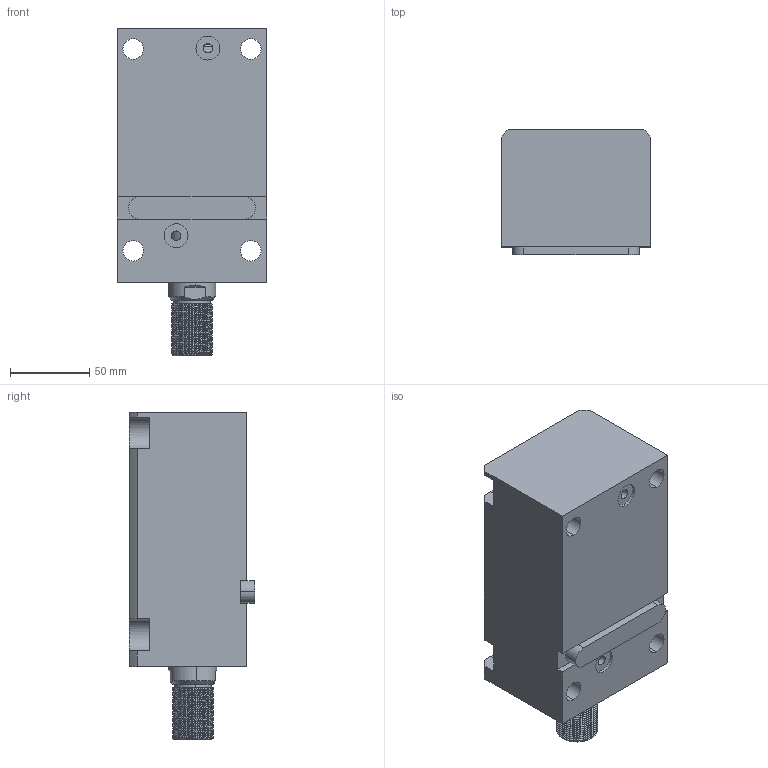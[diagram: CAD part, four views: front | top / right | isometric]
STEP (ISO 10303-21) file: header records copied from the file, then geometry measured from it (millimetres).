
FILE_DESCRIPTION (( 'STEP AP203' ), '1' );
FILE_NAME ('CHTB-LAM50-100W.STEP', '2018-05-24T00:15:20', ( '' ), ( '' ), 'SwSTEP 2.0', 'SolidWorks 2015', '' );
FILE_SCHEMA (( 'CONFIG_CONTROL_DESIGN' ));
Length unit declared in the file: millimetre
Products named in the file (4): 活塞杆LAM50-100W; CHTB-LAM50-100W; CHTM-SDMA50QG; 掛极LAM50-100W
Assembly tree (3 placements, depth 2):
  CHTB-LAM50-100W
    掛极LAM50-100W
    活塞杆LAM50-100W
    CHTM-SDMA50QG
Bounding box: 94 x 79 x 206 mm (x, y, z)
Volume: 957650.4 mm3; surface area: 144510.1 mm2
Topology: 3 solids, 3 shells, 234 faces, 652 edges, 436 vertices
Faces by surface type: cylinder 136, plane 53, bspline 16, torus 16, cone 13
Entity records: 14802 total; most frequent: CARTESIAN_POINT 8867, ORIENTED_EDGE 1296, DIRECTION 1023, EDGE_CURVE 648, VERTEX_POINT 436, AXIS2_PLACEMENT_3D 395, EDGE_LOOP 264, ADVANCED_FACE 234
